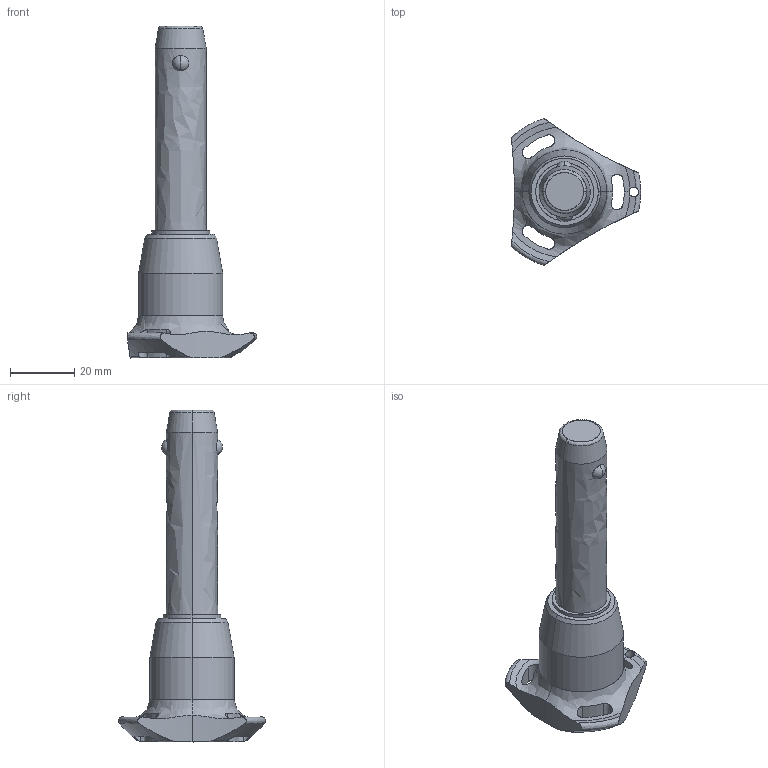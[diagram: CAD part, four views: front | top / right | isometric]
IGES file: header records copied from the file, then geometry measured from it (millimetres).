
Start section: SolidWorks IGES file using analytic representation for surfaces
Global section: file name: C:\Users\ianosborn\Desktop\QR1724_v2\QR1724_v2_20251112_IGES\QR1724.M16-050-S.igs; native system: SolidWorks 2019; preprocessor: SolidWorks 2019; author: IanOsborn; date: 251112.130248; units: millimetre
Bounding box: 40.5 x 45.88 x 103.7 mm (x, y, z)
Surface area: 9171.8 mm2 (no closed solid volume)
Topology: 0 solids, 0 shells, 65 faces, 1379 edges, 1375 vertices
Faces by surface type: revolution 50, bspline 15
